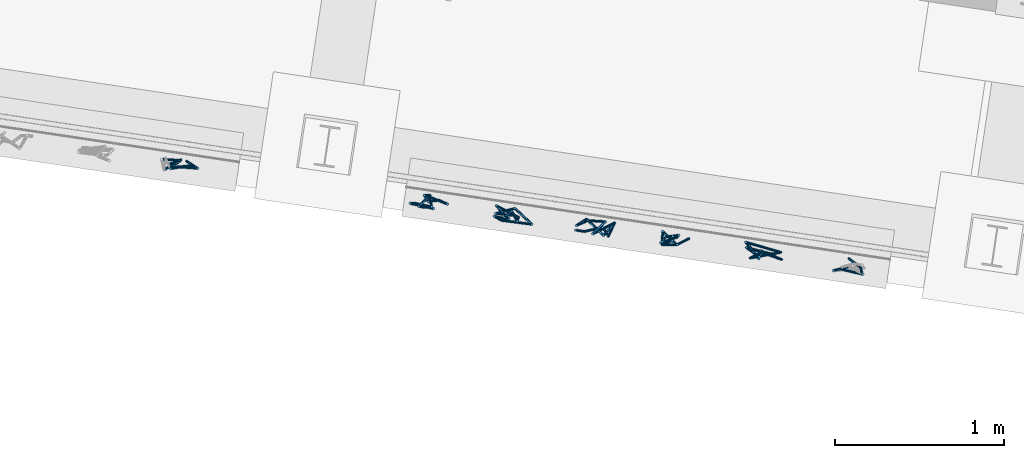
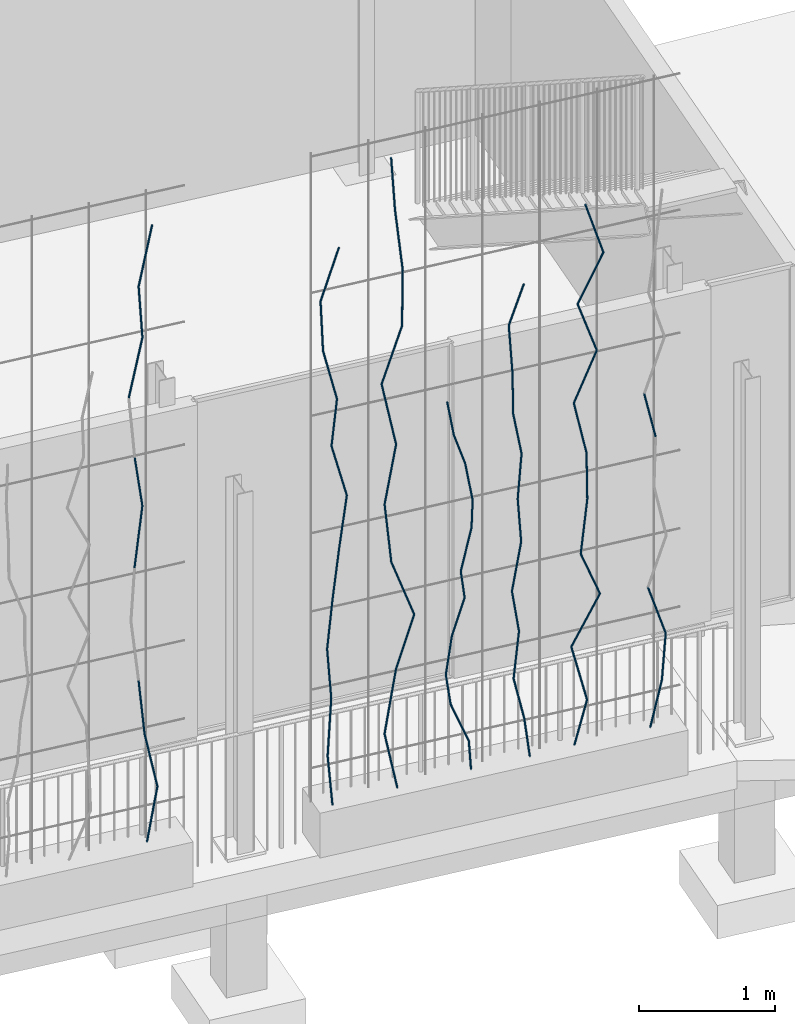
# One storey, part 123 of 142: 67 members, 1 element without a shape of its own.
"""IFC4 building model written with IfcOpenShell, lengths in metres."""

from ifc_helpers import new_model, si_unit, direction, frame, origin_with_axes, place, context, subcontext, project, spatial, circle, extrude, material, material_profile, profile_set, profile_usage, type_object, element, aggregate, save


model = new_model("IFC4")

# Units and contexts
model_context = context("Model", 3, precision=1e-05, world=origin_with_axes(), true_north=direction((0.0, 1.0)))
body_context = subcontext(model_context, "Body", "Model", "MODEL_VIEW")
ifc_project = project(units=[si_unit("AREAUNIT", "SQUARE_METRE"), si_unit("VOLUMEUNIT", "CUBIC_METRE"), si_unit("LENGTHUNIT", "METRE")], contexts=[model_context])

# Site, building, storey
site_placement = place(None, origin_with_axes())
site = spatial("IfcSite", under=ifc_project, at=site_placement, Name="Lares · Rua das Mercês · artigo 4771")
building_placement = place(site_placement, frame((15.0, 9.7, 14.65), z_axis=(0.0, 0.0, 1.0), x_axis=(0.989015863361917, -0.147809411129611, 0.0)))
building = spatial("IfcBuilding", under=site, at=building_placement, Name="Casa Sobreposta")
storey_placement = place(building_placement, origin_with_axes())
storey = spatial("IfcBuildingStorey", under=building, at=storey_placement, Name="00 · Habitação e estacionamento", Elevation=14.65)

# Assembly, members
assembly_placement = place(storey_placement, origin_with_axes())
assembly = element("IfcElementAssembly", 1, at=assembly_placement, inside=storey, Name="Fachada sul e pátio · estrutura e trepadeiras", ObjectType="LIVING_SHADE_TRELLIS", PredefinedType="USERDEFINED")
ifc_material = material(Name="Ramos de trepadeiras", Category="wood")
ifc_material_profile = material_profile(ifc_material, circle(Radius=0.0075))
ifc_profile_set = profile_set([ifc_material_profile], Name="D0.015")
ifc_profile_usage_1 = profile_usage(ifc_profile_set)
member_type = type_object("IfcMemberType", Name="D0.015 / vine_wood", PredefinedType="NOTDEFINED", material=ifc_profile_set)
member_1_placement = place(assembly_placement, frame((19.1898417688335, -1.65043430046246, 0.35), z_axis=(0.138740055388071, -0.062169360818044, 0.988375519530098), x_axis=(-0.408921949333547, -0.912569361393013, 0.0)))
member_1 = element("IfcMember", 2, at=member_1_placement, type_object=member_type, material=ifc_profile_usage_1, Name="Trepadeiras · ramo", context=body_context, shape_type="SweptSolid", body=[
    extrude(circle(Radius=0.0075), origin_with_axes(), (0.0, 0.0, 1.0), 0.508560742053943),
])
ifc_profile_usage_2 = profile_usage(ifc_profile_set)
member_2_placement = place(assembly_placement, frame((19.2603995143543, -1.68205119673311, 0.852648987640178), z_axis=(-0.203918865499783, -0.016448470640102, 0.978849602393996), x_axis=(-0.0804007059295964, 0.99676262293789, 0.0)))
member_2 = element("IfcMember", 3, at=member_2_placement, type_object=member_type, material=ifc_profile_usage_2, Name="Trepadeiras · ramo", context=body_context, shape_type="SweptSolid", body=[
    extrude(circle(Radius=0.0075), origin_with_axes(), (0.0, 0.0, 1.0), 0.513509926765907),
])
ifc_profile_usage_3 = profile_usage(ifc_profile_set)
member_3_placement = place(assembly_placement, frame((19.1556851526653, -1.69049764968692, 1.35529797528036), z_axis=(-0.106879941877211, -0.0350587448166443, 0.993653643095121), x_axis=(-0.311680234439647, 0.950187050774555, 0.0)))
member_3 = element("IfcMember", 4, at=member_3_placement, type_object=member_type, material=ifc_profile_usage_3, Name="Trepadeiras · ramo", context=body_context, shape_type="SweptSolid", body=[
    extrude(circle(Radius=0.0075), origin_with_axes(), (0.0, 0.0, 1.0), 0.505859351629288),
])
ifc_profile_usage_4 = profile_usage(ifc_profile_set)
member_4_placement = place(assembly_placement, frame((19.0765049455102, -1.69160728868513, 2.86324493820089), z_axis=(0.155101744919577, 0.0869630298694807, 0.984063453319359), x_axis=(0.489057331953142, -0.872251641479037, 0.0)))
member_4 = element("IfcMember", 5, at=member_4_placement, type_object=member_type, material=ifc_profile_usage_4, Name="Trepadeiras · ramo", context=body_context, shape_type="SweptSolid", body=[
    extrude(circle(Radius=0.0075), origin_with_axes(), (0.0, 0.0, 1.0), 0.510789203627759),
])
ifc_profile_usage_5 = profile_usage(ifc_profile_set)
member_5_placement = place(assembly_placement, frame((19.155729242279, -1.64718751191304, 3.36589392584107), z_axis=(-0.173161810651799, -0.141522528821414, 0.974672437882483), x_axis=(-0.632821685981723, 0.774297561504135, 0.0)))
member_5 = element("IfcMember", 6, at=member_5_placement, type_object=member_type, material=ifc_profile_usage_5, Name="Trepadeiras · ramo", context=body_context, shape_type="SweptSolid", body=[
    extrude(circle(Radius=0.0075), origin_with_axes(), (0.0, 0.0, 1.0), 0.515710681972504),
])
ifc_profile_usage_6 = profile_usage(ifc_profile_set)
member_6_placement = place(assembly_placement, frame((19.0430361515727, -1.66153923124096, 4.37119190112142), z_axis=(0.216829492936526, 0.0211767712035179, 0.975979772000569), x_axis=(0.0972030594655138, -0.99526457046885, 0.0)))
member_6 = element("IfcMember", 7, at=member_6_placement, type_object=member_type, material=ifc_profile_usage_6, Name="Trepadeiras · ramo", context=body_context, shape_type="SweptSolid", body=[
    extrude(circle(Radius=0.0075), origin_with_axes(), (0.0, 0.0, 1.0), 0.515019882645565),
])
ifc_profile_usage_7 = profile_usage(ifc_profile_set)
member_7_placement = place(assembly_placement, frame((19.154707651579, -1.65063277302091, 4.8738408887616), z_axis=(-0.098262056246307, -0.100013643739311, 0.990122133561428), x_axis=(-0.713325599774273, 0.700832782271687, 0.0)))
member_7 = element("IfcMember", 8, at=member_7_placement, type_object=member_type, material=ifc_profile_usage_7, Name="Trepadeiras · ramo", context=body_context, shape_type="SweptSolid", body=[
    extrude(circle(Radius=0.0075), origin_with_axes(), (0.0, 0.0, 1.0), 0.507663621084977),
])
ifc_profile_usage_8 = profile_usage(ifc_profile_set)
member_8_placement = place(assembly_placement, frame((19.1048235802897, -1.70140606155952, 5.37648987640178), z_axis=(0.228548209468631, 0.0570654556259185, 0.971858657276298), x_axis=(0.242249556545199, -0.970213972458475, 0.0)))
member_8 = element("IfcMember", 9, at=member_8_placement, type_object=member_type, material=ifc_profile_usage_8, Name="Trepadeiras · ramo", context=body_context, shape_type="SweptSolid", body=[
    extrude(circle(Radius=0.0075), origin_with_axes(), (0.0, 0.0, 1.0), 0.517203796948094),
])
ifc_profile_usage_9 = profile_usage(ifc_profile_set)
member_9_placement = place(assembly_placement, frame((20.6273763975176, -1.71270765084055, 0.35), z_axis=(-0.0835871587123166, 0.00224471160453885, 0.996497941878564), x_axis=(0.0268450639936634, 0.999639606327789, 0.0)))
member_9 = element("IfcMember", 10, at=member_9_placement, type_object=member_type, material=ifc_profile_usage_9, Name="Trepadeiras · ramo", context=body_context, shape_type="SweptSolid", body=[
    extrude(circle(Radius=0.0075), origin_with_axes(), (0.0, 0.0, 1.0), 0.454249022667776),
])
ifc_profile_usage_10 = profile_usage(ifc_profile_set)
member_10_placement = place(assembly_placement, frame((20.5894070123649, -1.71168799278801, 0.802658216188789), z_axis=(0.124814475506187, 0.161144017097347, 0.979006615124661), x_axis=(0.790586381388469, -0.61235053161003, 0.0)))
member_10 = element("IfcMember", 11, at=member_10_placement, type_object=member_type, material=ifc_profile_usage_10, Name="Trepadeiras · ramo", context=body_context, shape_type="SweptSolid", body=[
    extrude(circle(Radius=0.0075), origin_with_axes(), (0.0, 0.0, 1.0), 0.462364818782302),
])
ifc_profile_usage_11 = profile_usage(ifc_profile_set)
member_11_placement = place(assembly_placement, frame((20.6471168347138, -1.63718066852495, 1.25531643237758), z_axis=(-0.0761302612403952, -0.0115954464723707, 0.997030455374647), x_axis=(-0.150574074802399, 0.988598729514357, 0.0)))
member_11 = element("IfcMember", 12, at=member_11_placement, type_object=member_type, material=ifc_profile_usage_11, Name="Trepadeiras · ramo", context=body_context, shape_type="SweptSolid", body=[
    extrude(circle(Radius=0.0075), origin_with_axes(), (0.0, 0.0, 1.0), 0.454006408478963),
])
ifc_profile_usage_12 = profile_usage(ifc_profile_set)
member_12_placement = place(assembly_placement, frame((20.6125532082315, -1.64244507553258, 1.70797464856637), z_axis=(0.0638104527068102, -0.07208499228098, 0.995355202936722), x_axis=(-0.748775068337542, -0.662824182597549, 0.0)))
member_12 = element("IfcMember", 13, at=member_12_placement, type_object=member_type, material=ifc_profile_usage_12, Name="Trepadeiras · ramo", context=body_context, shape_type="SweptSolid", body=[
    extrude(circle(Radius=0.0075), origin_with_axes(), (0.0, 0.0, 1.0), 0.454770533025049),
])
ifc_profile_usage_13 = profile_usage(ifc_profile_set)
member_13_placement = place(assembly_placement, frame((20.6415723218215, -1.67522720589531, 2.16063286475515), z_axis=(0.134562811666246, 0.0371278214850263, 0.990209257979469), x_axis=(0.265975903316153, -0.963979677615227, 0.0)))
member_13 = element("IfcMember", 14, at=member_13_placement, type_object=member_type, material=ifc_profile_usage_13, Name="Trepadeiras · ramo", context=body_context, shape_type="SweptSolid", body=[
    extrude(circle(Radius=0.0075), origin_with_axes(), (0.0, 0.0, 1.0), 0.457133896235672),
])
ifc_profile_usage_14 = profile_usage(ifc_profile_set)
member_14_placement = place(assembly_placement, frame((20.7030855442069, -1.65825482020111, 2.61329108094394), z_axis=(0.115686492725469, -0.0326950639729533, 0.99274753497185), x_axis=(-0.271965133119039, -0.962307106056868, -3.58129519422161e-18)))
member_14 = element("IfcMember", 15, at=member_14_placement, type_object=member_type, material=ifc_profile_usage_14, Name="Trepadeiras · ramo", context=body_context, shape_type="SweptSolid", body=[
    extrude(circle(Radius=0.0075), origin_with_axes(), (0.0, 0.0, 1.0), 0.455965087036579),
])
ifc_profile_usage_15 = profile_usage(ifc_profile_set)
member_15_placement = place(assembly_placement, frame((20.7558345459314, -1.67316262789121, 3.06594929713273), z_axis=(-0.237226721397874, 0.0552053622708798, 0.969884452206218), x_axis=(0.226655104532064, 0.973975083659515, 0.0)))
member_15 = element("IfcMember", 16, at=member_15_placement, type_object=member_type, material=ifc_profile_usage_15, Name="Trepadeiras · ramo", context=body_context, shape_type="SweptSolid", body=[
    extrude(circle(Radius=0.0075), origin_with_axes(), (0.0, 0.0, 1.0), 0.466713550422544),
])
ifc_profile_usage_16 = profile_usage(ifc_profile_set)
member_16_placement = place(assembly_placement, frame((20.6451176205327, -1.6473975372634, 3.51860751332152), z_axis=(0.0464804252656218, -0.122384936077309, 0.991393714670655), x_axis=(-0.934849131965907, -0.35504520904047, 0.0)))
member_16 = element("IfcMember", 17, at=member_16_placement, type_object=member_type, material=ifc_profile_usage_16, Name="Trepadeiras · ramo", context=body_context, shape_type="SweptSolid", body=[
    extrude(circle(Radius=0.0075), origin_with_axes(), (0.0, 0.0, 1.0), 0.456587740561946),
])
ifc_profile_usage_17 = profile_usage(ifc_profile_set)
member_17_placement = place(assembly_placement, frame((20.6663400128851, -1.70327699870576, 3.97126572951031), z_axis=(-0.230614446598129, 0.0148450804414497, 0.972931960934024), x_axis=(0.0642389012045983, 0.997934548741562, 0.0)))
member_17 = element("IfcMember", 18, at=member_17_placement, type_object=member_type, material=ifc_profile_usage_17, Name="Trepadeiras · ramo", context=body_context, shape_type="SweptSolid", body=[
    extrude(circle(Radius=0.0075), origin_with_axes(), (0.0, 0.0, 1.0), 0.465251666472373),
])
ifc_profile_usage_18 = profile_usage(ifc_profile_set)
member_18_placement = place(assembly_placement, frame((20.5590462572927, -1.69637030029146, 4.4239239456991), z_axis=(-0.0477503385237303, -0.0120278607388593, 0.998786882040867), x_axis=(-0.244260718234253, 0.969709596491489, 0.0)))
member_18 = element("IfcMember", 19, at=member_18_placement, type_object=member_type, material=ifc_profile_usage_18, Name="Trepadeiras · ramo", context=body_context, shape_type="SweptSolid", body=[
    extrude(circle(Radius=0.0075), origin_with_axes(), (0.0, 0.0, 1.0), 0.453208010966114),
])
ifc_profile_usage_19 = profile_usage(ifc_profile_set)
member_19_placement = place(assembly_placement, frame((20.5374054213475, -1.70182142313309, 4.87658216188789), z_axis=(0.297139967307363, -0.0221915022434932, 0.95457601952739), x_axis=(-0.0744762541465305, -0.997222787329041, 0.0)))
member_19 = element("IfcMember", 20, at=member_19_placement, type_object=member_type, material=ifc_profile_usage_19, Name="Trepadeiras · ramo", context=body_context, shape_type="SweptSolid", body=[
    extrude(circle(Radius=0.0075), origin_with_axes(), (0.0, 0.0, 1.0), 0.474198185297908),
])
ifc_profile_usage_20 = profile_usage(ifc_profile_set)
member_20_placement = place(assembly_placement, frame((21.1508159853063, -1.68230697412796, 0.35), z_axis=(-0.195931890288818, -0.00688597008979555, 0.980593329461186), x_axis=(-0.0351230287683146, 0.99938299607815, 0.0)))
member_20 = element("IfcMember", 21, at=member_20_placement, type_object=member_type, material=ifc_profile_usage_20, Name="Trepadeiras · ramo", context=body_context, shape_type="SweptSolid", body=[
    extrude(circle(Radius=0.0075), origin_with_axes(), (0.0, 0.0, 1.0), 0.526725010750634),
])
ifc_profile_usage_21 = profile_usage(ifc_profile_set)
member_21_placement = place(assembly_placement, frame((21.0476137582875, -1.68593398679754, 0.866503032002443), z_axis=(0.203482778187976, 0.0879343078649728, 0.97512169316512), x_axis=(0.396689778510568, -0.917952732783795, 0.0)))
member_21 = element("IfcMember", 22, at=member_21_placement, type_object=member_type, material=ifc_profile_usage_21, Name="Trepadeiras · ramo", context=body_context, shape_type="SweptSolid", body=[
    extrude(circle(Radius=0.0075), origin_with_axes(), (0.0, 0.0, 1.0), 0.529680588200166),
])
ifc_profile_usage_22 = profile_usage(ifc_profile_set)
member_22_placement = place(assembly_placement, frame((21.1553946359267, -1.63935689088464, 1.38300606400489), z_axis=(0.212115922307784, -0.146392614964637, 0.966217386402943), x_axis=(-0.568011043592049, -0.823020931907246, 0.0)))
member_22 = element("IfcMember", 23, at=member_22_placement, type_object=member_type, material=ifc_profile_usage_22, Name="Trepadeiras · ramo", context=body_context, shape_type="SweptSolid", body=[
    extrude(circle(Radius=0.0075), origin_with_axes(), (0.0, 0.0, 1.0), 0.534561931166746),
])
ifc_profile_usage_23 = profile_usage(ifc_profile_set)
member_23_placement = place(assembly_placement, frame((21.2687837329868, -1.71761280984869, 1.89950909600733), z_axis=(-0.332001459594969, -0.00695787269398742, 0.943253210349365), x_axis=(-0.0209527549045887, 0.999780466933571, -1.23186526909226e-18)))
member_23 = element("IfcMember", 24, at=member_23_placement, type_object=member_type, material=ifc_profile_usage_23, Name="Trepadeiras · ramo", context=body_context, shape_type="SweptSolid", body=[
    extrude(circle(Radius=0.0075), origin_with_axes(), (0.0, 0.0, 1.0), 0.547576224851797),
])
ifc_profile_usage_24 = profile_usage(ifc_profile_set)
member_24_placement = place(assembly_placement, frame((21.0869876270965, -1.72142277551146, 2.41601212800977), z_axis=(-0.0884008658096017, 0.034321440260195, 0.995493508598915), x_axis=(0.361927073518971, 0.932206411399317, 0.0)))
member_24 = element("IfcMember", 25, at=member_24_placement, type_object=member_type, material=ifc_profile_usage_24, Name="Trepadeiras · ramo", context=body_context, shape_type="SweptSolid", body=[
    extrude(circle(Radius=0.0075), origin_with_axes(), (0.0, 0.0, 1.0), 0.518841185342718),
])
ifc_profile_usage_25 = profile_usage(ifc_profile_set)
member_25_placement = place(assembly_placement, frame((21.0411216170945, -1.70361539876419, 2.93251516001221), z_axis=(0.169583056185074, -0.00834312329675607, 0.985480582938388), x_axis=(-0.0491384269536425, -0.998791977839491, 0.0)))
member_25 = element("IfcMember", 26, at=member_25_placement, type_object=member_type, material=ifc_profile_usage_25, Name="Trepadeiras · ramo", context=body_context, shape_type="SweptSolid", body=[
    extrude(circle(Radius=0.0075), origin_with_axes(), (0.0, 0.0, 1.0), 0.524112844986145),
])
ifc_profile_usage_26 = profile_usage(ifc_profile_set)
member_26_placement = place(assembly_placement, frame((21.1300022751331, -1.70798813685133, 3.44901819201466), z_axis=(-0.165196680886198, 0.12887641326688, 0.977804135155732), x_axis=(0.615100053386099, 0.788449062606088, 0.0)))
member_26 = element("IfcMember", 27, at=member_26_placement, type_object=member_type, material=ifc_profile_usage_26, Name="Trepadeiras · ramo", context=body_context, shape_type="SweptSolid", body=[
    extrude(circle(Radius=0.0075), origin_with_axes(), (0.0, 0.0, 1.0), 0.528227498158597),
])
ifc_profile_usage_27 = profile_usage(ifc_profile_set)
member_27_placement = place(assembly_placement, frame((21.0427408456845, -1.63991207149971, 3.9655212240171), z_axis=(0.263772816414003, -0.0896208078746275, 0.960412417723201), x_axis=(-0.321703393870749, -0.946840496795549, 0.0)))
member_27 = element("IfcMember", 28, at=member_27_placement, type_object=member_type, material=ifc_profile_usage_27, Name="Trepadeiras · ramo", context=body_context, shape_type="SweptSolid", body=[
    extrude(circle(Radius=0.0075), origin_with_axes(), (0.0, 0.0, 1.0), 0.537792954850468),
])
ifc_profile_usage_28 = profile_usage(ifc_profile_set)
member_28_placement = place(assembly_placement, frame((21.184596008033, -1.68810951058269, 4.48202425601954), z_axis=(-0.00884303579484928, -0.0496550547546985, 0.998727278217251), x_axis=(-0.984509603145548, 0.175330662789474, 0.0)))
member_28 = element("IfcMember", 29, at=member_28_placement, type_object=member_type, material=ifc_profile_usage_28, Name="Trepadeiras · ramo", context=body_context, shape_type="SweptSolid", body=[
    extrude(circle(Radius=0.0075), origin_with_axes(), (0.0, 0.0, 1.0), 0.517161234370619),
])
ifc_profile_usage_29 = profile_usage(ifc_profile_set)
member_29_placement = place(assembly_placement, frame((21.1800227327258, -1.71378917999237, 4.99852728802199), z_axis=(-0.0758756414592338, 0.105289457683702, 0.991542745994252), x_axis=(0.811288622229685, 0.584645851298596, 0.0)))
member_29 = element("IfcMember", 30, at=member_29_placement, type_object=member_type, material=ifc_profile_usage_29, Name="Trepadeiras · ramo", context=body_context, shape_type="SweptSolid", body=[
    extrude(circle(Radius=0.0075), origin_with_axes(), (0.0, 0.0, 1.0), 0.520908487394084),
])
ifc_profile_usage_30 = profile_usage(ifc_profile_set)
member_30_placement = place(assembly_placement, frame((21.1404984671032, -1.65894300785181, 5.51503032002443), z_axis=(-0.104207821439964, -0.117962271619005, 0.987535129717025), x_axis=(-0.749448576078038, 0.662062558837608, -1.08838242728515e-17)))
member_30 = element("IfcMember", 31, at=member_30_placement, type_object=member_type, material=ifc_profile_usage_30, Name="Trepadeiras · ramo", context=body_context, shape_type="SweptSolid", body=[
    extrude(circle(Radius=0.0075), origin_with_axes(), (0.0, 0.0, 1.0), 0.523022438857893),
])
ifc_profile_usage_31 = profile_usage(ifc_profile_set)
member_31_placement = place(assembly_placement, frame((21.7400761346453, -1.65737869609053, 0.35), z_axis=(-0.132655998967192, -0.198443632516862, 0.971093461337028), x_axis=(-0.831353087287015, 0.555744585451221, 0.0)))
member_31 = element("IfcMember", 32, at=member_31_placement, type_object=member_type, material=ifc_profile_usage_31, Name="Trepadeiras · ramo", context=body_context, shape_type="SweptSolid", body=[
    extrude(circle(Radius=0.0075), origin_with_axes(), (0.0, 0.0, 1.0), 0.316169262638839),
])
ifc_profile_usage_32 = profile_usage(ifc_profile_set)
member_32_placement = place(assembly_placement, frame((21.6981343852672, -1.72012047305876, 0.657029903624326), z_axis=(-0.333334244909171, 0.241004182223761, 0.911485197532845), x_axis=(0.585910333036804, 0.810375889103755, 0.0)))
member_32 = element("IfcMember", 33, at=member_32_placement, type_object=member_type, material=ifc_profile_usage_32, Name="Trepadeiras · ramo", context=body_context, shape_type="SweptSolid", body=[
    extrude(circle(Radius=0.0075), origin_with_axes(), (0.0, 0.0, 1.0), 0.336845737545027),
])
ifc_profile_usage_33 = profile_usage(ifc_profile_set)
member_33_placement = place(assembly_placement, frame((21.5858521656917, -1.63893924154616, 0.964059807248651), z_axis=(-0.176045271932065, -0.148963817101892, 0.973045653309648), x_axis=(-0.645948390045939, 0.763381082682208, 0.0)))
member_33 = element("IfcMember", 34, at=member_33_placement, type_object=member_type, material=ifc_profile_usage_33, Name="Trepadeiras · ramo", context=body_context, shape_type="SweptSolid", body=[
    extrude(circle(Radius=0.0075), origin_with_axes(), (0.0, 0.0, 1.0), 0.31553494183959),
])
ifc_profile_usage_34 = profile_usage(ifc_profile_set)
member_34_placement = place(assembly_placement, frame((21.5303037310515, -1.68594253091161, 1.27108971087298), z_axis=(0.200304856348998, 0.124144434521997, 0.971836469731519), x_axis=(0.526803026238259, -0.84998739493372, 0.0)))
member_34 = element("IfcMember", 35, at=member_34_placement, type_object=member_type, material=ifc_profile_usage_34, Name="Trepadeiras · ramo", context=body_context, shape_type="SweptSolid", body=[
    extrude(circle(Radius=0.0075), origin_with_axes(), (0.0, 0.0, 1.0), 0.315927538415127),
])
ifc_profile_usage_35 = profile_usage(ifc_profile_set)
member_35_placement = place(assembly_placement, frame((21.5935855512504, -1.64672188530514, 1.5781196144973), z_axis=(0.32025230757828, 0.0266897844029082, 0.946956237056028), x_axis=(0.083051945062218, -0.996545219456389, 0.0)))
member_35 = element("IfcMember", 36, at=member_35_placement, type_object=member_type, material=ifc_profile_usage_35, Name="Trepadeiras · ramo", context=body_context, shape_type="SweptSolid", body=[
    extrude(circle(Radius=0.0075), origin_with_axes(), (0.0, 0.0, 1.0), 0.324228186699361),
])
ifc_profile_usage_36 = profile_usage(ifc_profile_set)
member_36_placement = place(assembly_placement, frame((21.6974203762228, -1.63806830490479, 1.88514951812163), z_axis=(-0.194227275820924, -0.253704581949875, 0.947580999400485), x_axis=(-0.794028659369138, 0.607880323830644, 0.0)))
member_36 = element("IfcMember", 37, at=member_36_placement, type_object=member_type, material=ifc_profile_usage_36, Name="Trepadeiras · ramo", context=body_context, shape_type="SweptSolid", body=[
    extrude(circle(Radius=0.0075), origin_with_axes(), (0.0, 0.0, 1.0), 0.324014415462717),
])
ifc_profile_usage_37 = profile_usage(ifc_profile_set)
member_37_placement = place(assembly_placement, frame((21.6344879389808, -1.72027224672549, 2.19217942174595), z_axis=(0.346862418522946, 0.245001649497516, 0.905351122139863), x_axis=(0.576930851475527, -0.816792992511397, 0.0)))
member_37 = element("IfcMember", 38, at=member_37_placement, type_object=member_type, material=ifc_profile_usage_37, Name="Trepadeiras · ramo", context=body_context, shape_type="SweptSolid", body=[
    extrude(circle(Radius=0.0075), origin_with_axes(), (0.0, 0.0, 1.0), 0.339127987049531),
])
ifc_profile_usage_38 = profile_usage(ifc_profile_set)
member_38_placement = place(assembly_placement, frame((21.7521186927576, -1.63718533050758, 2.49920932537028), z_axis=(-0.0767531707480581, -0.261711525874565, 0.962089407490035), x_axis=(-0.959584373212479, 0.281421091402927, 0.0)))
member_38 = element("IfcMember", 39, at=member_38_placement, type_object=member_type, material=ifc_profile_usage_38, Name="Trepadeiras · ramo", context=body_context, shape_type="SweptSolid", body=[
    extrude(circle(Radius=0.0075), origin_with_axes(), (0.0, 0.0, 1.0), 0.319128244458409),
])
ifc_profile_usage_39 = profile_usage(ifc_profile_set)
member_39_placement = place(assembly_placement, frame((21.7276245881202, -1.72070487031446, 2.80623922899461), z_axis=(-0.128062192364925, 0.15347184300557, 0.979819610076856), x_axis=(0.767805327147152, 0.640683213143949, 1.70070422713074e-17)))
member_39 = element("IfcMember", 40, at=member_39_placement, type_object=member_type, material=ifc_profile_usage_39, Name="Trepadeiras · ramo", context=body_context, shape_type="SweptSolid", body=[
    extrude(circle(Radius=0.0075), origin_with_axes(), (0.0, 0.0, 1.0), 0.313353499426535),
])
ifc_profile_usage_40 = profile_usage(ifc_profile_set)
member_40_placement = place(assembly_placement, frame((21.6874958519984, -1.67261393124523, 3.11326913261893), z_axis=(-0.321953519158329, -0.127479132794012, 0.938133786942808), x_axis=(-0.368146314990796, 0.929767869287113, 0.0)))
member_40 = element("IfcMember", 41, at=member_40_placement, type_object=member_type, material=ifc_profile_usage_40, Name="Trepadeiras · ramo", context=body_context, shape_type="SweptSolid", body=[
    extrude(circle(Radius=0.0075), origin_with_axes(), (0.0, 0.0, 1.0), 0.32727731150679),
])
ifc_profile_usage_41 = profile_usage(ifc_profile_set)
member_41_placement = place(assembly_placement, frame((21.5821277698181, -1.71433495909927, 3.42029903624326), z_axis=(-0.1646374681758, 0.00473812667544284, 0.986342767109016), x_axis=(0.028767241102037, 0.999586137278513, 0.0)))
member_41 = element("IfcMember", 42, at=member_41_placement, type_object=member_type, material=ifc_profile_usage_41, Name="Trepadeiras · ramo", context=body_context, shape_type="SweptSolid", body=[
    extrude(circle(Radius=0.0075), origin_with_axes(), (0.0, 0.0, 1.0), 0.31128114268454),
])
ifc_profile_usage_42 = profile_usage(ifc_profile_set)
member_42_placement = place(assembly_placement, frame((22.2010948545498, -1.66404666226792, 0.35), z_axis=(-0.156267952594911, -0.113426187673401, 0.981180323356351), x_axis=(-0.587415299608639, 0.809285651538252, 0.0)))
member_42 = element("IfcMember", 43, at=member_42_placement, type_object=member_type, material=ifc_profile_usage_42, Name="Trepadeiras · ramo", context=body_context, shape_type="SweptSolid", body=[
    extrude(circle(Radius=0.0075), origin_with_axes(), (0.0, 0.0, 1.0), 0.39630472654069),
])
ifc_profile_usage_43 = profile_usage(ifc_profile_set)
member_43_placement = place(assembly_placement, frame((22.1391651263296, -1.70899799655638, 0.738846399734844), z_axis=(-0.22503098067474, -0.0357928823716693, 0.973693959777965), x_axis=(-0.157082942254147, 0.98758541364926, 0.0)))
member_43 = element("IfcMember", 44, at=member_43_placement, type_object=member_type, material=ifc_profile_usage_43, Name="Trepadeiras · ramo", context=body_context, shape_type="SweptSolid", body=[
    extrude(circle(Radius=0.0075), origin_with_axes(), (0.0, 0.0, 1.0), 0.399351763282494),
])
ifc_profile_usage_44 = profile_usage(ifc_profile_set)
member_44_placement = place(assembly_placement, frame((22.0492986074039, -1.72329194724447, 1.12769279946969), z_axis=(0.140633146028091, 0.0834297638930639, 0.986540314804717), x_axis=(0.510216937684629, -0.860045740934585, 0.0)))
member_44 = element("IfcMember", 45, at=member_44_placement, type_object=member_type, material=ifc_profile_usage_44, Name="Trepadeiras · ramo", context=body_context, shape_type="SweptSolid", body=[
    extrude(circle(Radius=0.0075), origin_with_axes(), (0.0, 0.0, 1.0), 0.394151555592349),
])
ifc_profile_usage_45 = profile_usage(ifc_profile_set)
member_45_placement = place(assembly_placement, frame((22.1047293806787, -1.69040797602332, 1.51653919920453), z_axis=(-0.163460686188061, -0.0585675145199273, 0.984809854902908), x_axis=(-0.337300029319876, 0.941397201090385, 0.0)))
member_45 = element("IfcMember", 46, at=member_45_placement, type_object=member_type, material=ifc_profile_usage_45, Name="Trepadeiras · ramo", context=body_context, shape_type="SweptSolid", body=[
    extrude(circle(Radius=0.0075), origin_with_axes(), (0.0, 0.0, 1.0), 0.394844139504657),
])
ifc_profile_usage_46 = profile_usage(ifc_profile_set)
member_46_placement = place(assembly_placement, frame((22.040187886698, -1.71353301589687, 1.90538559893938), z_axis=(0.227101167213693, 0.117683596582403, 0.966734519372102), x_axis=(0.460093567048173, -0.8878704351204, 0.0)))
member_46 = element("IfcMember", 47, at=member_46_placement, type_object=member_type, material=ifc_profile_usage_46, Name="Trepadeiras · ramo", context=body_context, shape_type="SweptSolid", body=[
    extrude(circle(Radius=0.0075), origin_with_axes(), (0.0, 0.0, 1.0), 0.402226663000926),
])
ifc_profile_usage_47 = profile_usage(ifc_profile_set)
member_47_placement = place(assembly_placement, frame((22.1315340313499, -1.66619753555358, 2.29423199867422), z_axis=(-0.0684616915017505, 0.00441438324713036, 0.997643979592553), x_axis=(0.0643459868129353, 0.997927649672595, 0.0)))
member_47 = element("IfcMember", 48, at=member_47_placement, type_object=member_type, material=ifc_profile_usage_47, Name="Trepadeiras · ramo", context=body_context, shape_type="SweptSolid", body=[
    extrude(circle(Radius=0.0075), origin_with_axes(), (0.0, 0.0, 1.0), 0.389764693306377),
])
ifc_profile_usage_48 = profile_usage(ifc_profile_set)
member_48_placement = place(assembly_placement, frame((22.1048500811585, -1.66447696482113, 2.68307839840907), z_axis=(0.0895386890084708, 0.0295004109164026, 0.995546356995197), x_axis=(0.312924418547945, -0.949778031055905, 0.0)))
member_48 = element("IfcMember", 49, at=member_48_placement, type_object=member_type, material=ifc_profile_usage_48, Name="Trepadeiras · ramo", context=body_context, shape_type="SweptSolid", body=[
    extrude(circle(Radius=0.0075), origin_with_axes(), (0.0, 0.0, 1.0), 0.390585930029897),
])
ifc_profile_usage_49 = profile_usage(ifc_profile_set)
member_49_placement = place(assembly_placement, frame((22.1398226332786, -1.65295451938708, 3.07192479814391), z_axis=(-0.188230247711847, -0.0543596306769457, 0.980619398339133), x_axis=(-0.277454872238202, 0.960738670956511, 0.0)))
member_49 = element("IfcMember", 50, at=member_49_placement, type_object=member_type, material=ifc_profile_usage_49, Name="Trepadeiras · ramo", context=body_context, shape_type="SweptSolid", body=[
    extrude(circle(Radius=0.0075), origin_with_axes(), (0.0, 0.0, 1.0), 0.396531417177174),
])
ifc_profile_usage_50 = profile_usage(ifc_profile_set)
member_50_placement = place(assembly_placement, frame((22.0651834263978, -1.67450982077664, 3.46077119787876), z_axis=(-0.0452248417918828, -0.080516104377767, 0.995726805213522), x_axis=(-0.871878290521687, 0.489722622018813, 0.0)))
member_50 = element("IfcMember", 51, at=member_50_placement, type_object=member_type, material=ifc_profile_usage_50, Name="Trepadeiras · ramo", context=body_context, shape_type="SweptSolid", body=[
    extrude(circle(Radius=0.0075), origin_with_axes(), (0.0, 0.0, 1.0), 0.390515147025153),
])
ifc_profile_usage_51 = profile_usage(ifc_profile_set)
member_51_placement = place(assembly_placement, frame((22.0475224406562, -1.70595257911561, 3.8496175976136), z_axis=(-0.0136161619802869, 0.154508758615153, 0.987897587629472), x_axis=(0.996139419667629, 0.0877852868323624, 0.0)))
member_51 = element("IfcMember", 52, at=member_51_placement, type_object=member_type, material=ifc_profile_usage_51, Name="Trepadeiras · ramo", context=body_context, shape_type="SweptSolid", body=[
    extrude(circle(Radius=0.0075), origin_with_axes(), (0.0, 0.0, 1.0), 0.393610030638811),
])
ifc_profile_usage_52 = profile_usage(ifc_profile_set)
member_52_placement = place(assembly_placement, frame((22.042162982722, -1.64513638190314, 4.23846399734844), z_axis=(0.229076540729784, -0.161181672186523, 0.959971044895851), x_axis=(-0.575444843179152, -0.817840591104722, 0.0)))
member_52 = element("IfcMember", 53, at=member_52_placement, type_object=member_type, material=ifc_profile_usage_52, Name="Trepadeiras · ramo", context=body_context, shape_type="SweptSolid", body=[
    extrude(circle(Radius=0.0075), origin_with_axes(), (0.0, 0.0, 1.0), 0.405060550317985),
])
ifc_profile_usage_53 = profile_usage(ifc_profile_set)
member_53_placement = place(assembly_placement, frame((22.5568028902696, -1.64792253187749, 0.35), z_axis=(0.159137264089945, -0.163908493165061, 0.973554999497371), x_axis=(-0.71747215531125, -0.696587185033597, 0.0)))
member_53 = element("IfcMember", 54, at=member_53_placement, type_object=member_type, material=ifc_profile_usage_53, Name="Trepadeiras · ramo", context=body_context, shape_type="SweptSolid", body=[
    extrude(circle(Radius=0.0075), origin_with_axes(), (0.0, 0.0, 1.0), 0.451603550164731),
])
ifc_profile_usage_54 = profile_usage(ifc_profile_set)
member_54_placement = place(assembly_placement, frame((22.6286698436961, -1.72194418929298, 0.789660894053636), z_axis=(-0.19739697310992, 0.189913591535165, 0.96175218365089), x_axis=(0.693315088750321, 0.720634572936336, -2.43628467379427e-17)))
member_54 = element("IfcMember", 55, at=member_54_placement, type_object=member_type, material=ifc_profile_usage_54, Name="Trepadeiras · ramo", context=body_context, shape_type="SweptSolid", body=[
    extrude(circle(Radius=0.0075), origin_with_axes(), (0.0, 0.0, 1.0), 0.45714571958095),
])
ifc_profile_usage_55 = profile_usage(ifc_profile_set)
member_55_placement = place(assembly_placement, frame((22.5384306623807, -1.63512600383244, 1.22932178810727), z_axis=(0.437876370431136, -0.0583722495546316, 0.897138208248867), x_axis=(-0.132138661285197, -0.991231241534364, 0.0)))
member_55 = element("IfcMember", 56, at=member_55_placement, type_object=member_type, material=ifc_profile_usage_55, Name="Trepadeiras · ramo", context=body_context, shape_type="SweptSolid", body=[
    extrude(circle(Radius=0.0075), origin_with_axes(), (0.0, 0.0, 1.0), 0.490070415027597),
])
ifc_profile_usage_56 = profile_usage(ifc_profile_set)
member_56_placement = place(assembly_placement, frame((22.7530209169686, -1.66373251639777, 1.66898268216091), z_axis=(-0.367638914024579, -0.127090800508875, 0.921243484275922), x_axis=(-0.326722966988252, 0.945120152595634, 1.64335059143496e-17)))
member_56 = element("IfcMember", 57, at=member_56_placement, type_object=member_type, material=ifc_profile_usage_56, Name="Trepadeiras · ramo", context=body_context, shape_type="SweptSolid", body=[
    extrude(circle(Radius=0.0075), origin_with_axes(), (0.0, 0.0, 1.0), 0.477247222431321),
])
ifc_profile_usage_57 = profile_usage(ifc_profile_set)
member_57_placement = place(assembly_placement, frame((22.5775662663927, -1.7243862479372, 2.10864357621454), z_axis=(0.159100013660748, 0.110484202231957, 0.9810608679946), x_axis=(0.57038912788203, -0.82137460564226, 0.0)))
member_57 = element("IfcMember", 58, at=member_57_placement, type_object=member_type, material=ifc_profile_usage_57, Name="Trepadeiras · ramo", context=body_context, shape_type="SweptSolid", body=[
    extrude(circle(Radius=0.0075), origin_with_axes(), (0.0, 0.0, 1.0), 0.448148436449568),
])
ifc_profile_usage_58 = profile_usage(ifc_profile_set)
member_58_placement = place(assembly_placement, frame((22.6488666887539, -1.67487292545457, 2.54830447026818), z_axis=(-0.0433477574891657, -0.0749045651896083, 0.996248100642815), x_axis=(-0.865516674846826, 0.500880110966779, 0.0)))
member_58 = element("IfcMember", 59, at=member_58_placement, type_object=member_type, material=ifc_profile_usage_58, Name="Trepadeiras · ramo", context=body_context, shape_type="SweptSolid", body=[
    extrude(circle(Radius=0.0075), origin_with_axes(), (0.0, 0.0, 1.0), 0.441316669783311),
])
ifc_profile_usage_59 = profile_usage(ifc_profile_set)
member_59_placement = place(assembly_placement, frame((22.6297366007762, -1.70792955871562, 2.98796536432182), z_axis=(-0.186207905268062, 0.0927095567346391, 0.978126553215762), x_axis=(0.445696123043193, 0.895184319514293, 0.0)))
member_59 = element("IfcMember", 60, at=member_59_placement, type_object=member_type, material=ifc_profile_usage_59, Name="Trepadeiras · ramo", context=body_context, shape_type="SweptSolid", body=[
    extrude(circle(Radius=0.0075), origin_with_axes(), (0.0, 0.0, 1.0), 0.449492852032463),
])
ifc_profile_usage_60 = profile_usage(ifc_profile_set)
member_60_placement = place(assembly_placement, frame((22.5460374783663, -1.6662572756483, 3.42762625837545), z_axis=(0.367929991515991, -0.0378235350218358, 0.929083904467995), x_axis=(-0.102261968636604, -0.994757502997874, 0.0)))
member_60 = element("IfcMember", 61, at=member_60_placement, type_object=member_type, material=ifc_profile_usage_60, Name="Trepadeiras · ramo", context=body_context, shape_type="SweptSolid", body=[
    extrude(circle(Radius=0.0075), origin_with_axes(), (0.0, 0.0, 1.0), 0.473219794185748),
])
ifc_profile_usage_61 = profile_usage(ifc_profile_set)
member_61_placement = place(assembly_placement, frame((22.7201492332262, -1.68415612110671, 3.86728715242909), z_axis=(-0.313257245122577, 0.0332791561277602, 0.949085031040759), x_axis=(0.105641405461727, 0.994404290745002, 0.0)))
member_61 = element("IfcMember", 62, at=member_61_placement, type_object=member_type, material=ifc_profile_usage_61, Name="Trepadeiras · ramo", context=body_context, shape_type="SweptSolid", body=[
    extrude(circle(Radius=0.0075), origin_with_axes(), (0.0, 0.0, 1.0), 0.463247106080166),
])
ifc_profile_usage_62 = profile_usage(ifc_profile_set)
member_62_placement = place(assembly_placement, frame((22.5750337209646, -1.66873964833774, 4.30694804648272), z_axis=(0.393220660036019, -0.076026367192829, 0.916295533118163), x_axis=(-0.189827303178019, -0.981817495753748, 0.0)))
member_62 = element("IfcMember", 63, at=member_62_placement, type_object=member_type, material=ifc_profile_usage_62, Name="Trepadeiras · ramo", context=body_context, shape_type="SweptSolid", body=[
    extrude(circle(Radius=0.0075), origin_with_axes(), (0.0, 0.0, 1.0), 0.479824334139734),
])
ifc_profile_usage_63 = profile_usage(ifc_profile_set)
member_63_placement = place(assembly_placement, frame((22.7637105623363, -1.7052189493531, 4.74660894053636), z_axis=(-0.281828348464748, 0.0716682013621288, 0.956784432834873), x_axis=(0.246453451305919, 0.96915462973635, 0.0)))
member_63 = element("IfcMember", 64, at=member_63_placement, type_object=member_type, material=ifc_profile_usage_63, Name="Trepadeiras · ramo", context=body_context, shape_type="SweptSolid", body=[
    extrude(circle(Radius=0.0075), origin_with_axes(), (0.0, 0.0, 1.0), 0.459519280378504),
])
ifc_profile_usage_64 = profile_usage(ifc_profile_set)
member_64_placement = place(assembly_placement, frame((23.1572684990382, -1.64112605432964, 0.35), z_axis=(0.170564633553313, -0.0943483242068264, 0.980819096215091), x_axis=(-0.484035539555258, -0.875048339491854, 0.0)))
member_64 = element("IfcMember", 65, at=member_64_placement, type_object=member_type, material=ifc_profile_usage_64, Name="Trepadeiras · ramo", context=body_context, shape_type="SweptSolid", body=[
    extrude(circle(Radius=0.0075), origin_with_axes(), (0.0, 0.0, 1.0), 0.446052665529),
])
ifc_profile_usage_65 = profile_usage(ifc_profile_set)
member_65_placement = place(assembly_placement, frame((23.2333493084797, -1.68321037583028, 0.787496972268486), z_axis=(0.0340344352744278, -0.0856832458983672, 0.995740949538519), x_axis=(-0.929367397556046, -0.369156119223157, 0.0)))
member_65 = element("IfcMember", 66, at=member_65_placement, type_object=member_type, material=ifc_profile_usage_65, Name="Trepadeiras · ramo", context=body_context, shape_type="SweptSolid", body=[
    extrude(circle(Radius=0.0075), origin_with_axes(), (0.0, 0.0, 1.0), 0.439368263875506),
])
ifc_profile_usage_66 = profile_usage(ifc_profile_set)
member_66_placement = place(assembly_placement, frame((23.2483029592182, -1.72085687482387, 1.22499394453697), z_axis=(-0.295906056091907, 0.0242868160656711, 0.954908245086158), x_axis=(0.0818010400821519, 0.996648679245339, 0.0)))
member_66 = element("IfcMember", 67, at=member_66_placement, type_object=member_type, material=ifc_profile_usage_66, Name="Trepadeiras · ramo", context=body_context, shape_type="SweptSolid", body=[
    extrude(circle(Radius=0.0075), origin_with_axes(), (0.0, 0.0, 1.0), 0.458156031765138),
])
ifc_profile_usage_67 = profile_usage(ifc_profile_set)
member_67_placement = place(assembly_placement, frame((23.1844408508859, -1.67956518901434, 2.97498183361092), z_axis=(-0.235996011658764, -0.0998857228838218, 0.966606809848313), x_axis=(-0.389776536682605, 0.920909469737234, 0.0)))
member_67 = element("IfcMember", 68, at=member_67_placement, type_object=member_type, material=ifc_profile_usage_67, Name="Trepadeiras · ramo", context=body_context, shape_type="SweptSolid", body=[
    extrude(circle(Radius=0.0075), origin_with_axes(), (0.0, 0.0, 1.0), 0.452611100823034),
])
aggregate(assembly, [member_1, member_2, member_3, member_4, member_5, member_6, member_7, member_8, member_9, member_10, member_11, member_12, member_13, member_14, member_15, member_16, member_17, member_18, member_19, member_20, member_21, member_22, member_23, member_24, member_25, member_26, member_27, member_28, member_29, member_30, member_31, member_32, member_33, member_34, member_35, member_36, member_37, member_38, member_39, member_40, member_41, member_42, member_43, member_44, member_45, member_46, member_47, member_48, member_49, member_50, member_51, member_52, member_53, member_54, member_55, member_56, member_57, member_58, member_59, member_60, member_61, member_62, member_63, member_64, member_65, member_66, member_67])

save(model, "model.ifc")
